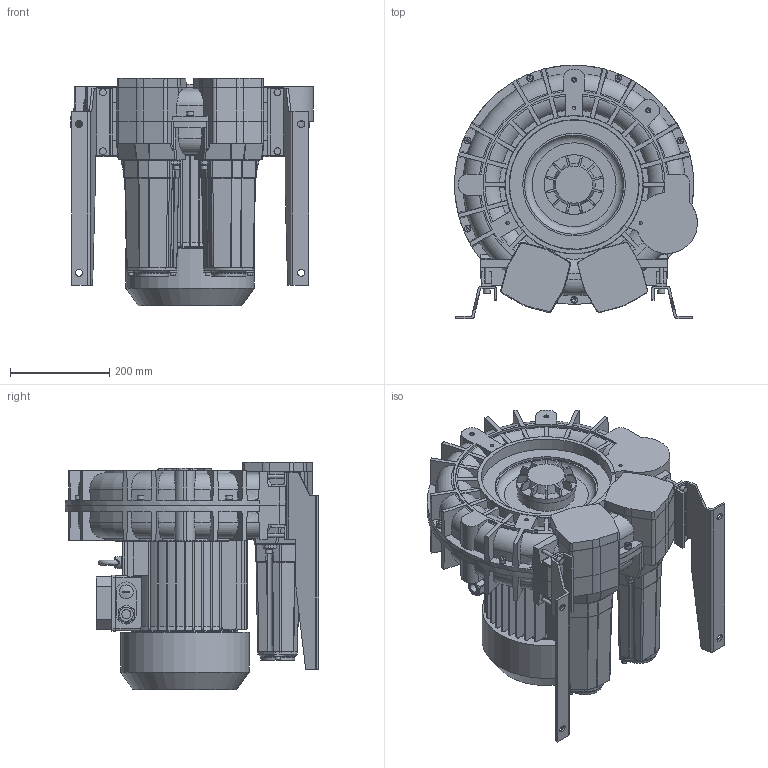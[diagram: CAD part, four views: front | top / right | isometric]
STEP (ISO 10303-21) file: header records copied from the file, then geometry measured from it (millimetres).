
FILE_DESCRIPTION (( 'STEP AP203' ), '1' );
FILE_NAME ('STP-L_e_08_MD_MOR_IE3WR_132_5.5kW-3_24-00.step', '2025-01-13T11:21:05', ( '' ), ( '' ), 'SwSTEP 2.0', 'SolidWorks 2024', '' );
FILE_SCHEMA (( 'CONFIG_CONTROL_DESIGN' ));
Length unit declared in the file: millimetre
Products named in the file (1): STP-L_e_08_MD_MOR_IE3WR_132_5.5kW-3_24-00
Bounding box: 489.5 x 511 x 459 mm (x, y, z)
Volume: 38575695.9 mm3; surface area: 2487876 mm2
Topology: 62 solids, 62 shells, 2739 faces, 7185 edges, 4574 vertices
Faces by surface type: plane 1264, cylinder 700, torus 289, cone 245, bspline 238, sphere 3
Full cylindrical faces by diameter (mm): 4 x8, 5 x8, 6 x4, 6.4 x4, 6.8 x8, 7.5 x4, 8 x19, 8.4 x15, 8.5 x4, 10 x9, 13 x26, 14 x4, 16 x4, 18 x1, 19 x1, 20 x2, 21.4 x1, 24 x4, 25 x3, 28 x1, 57 x2, 115 x2, 120 x1, 207 x3, 213 x1, 259 x1
Entity records: 91600 total; most frequent: CARTESIAN_POINT 28519, ORIENTED_EDGE 13396, DIRECTION 12497, EDGE_CURVE 6698, AXIS2_PLACEMENT_3D 4687, VERTEX_POINT 4449, EDGE_LOOP 3205, VECTOR 3123
